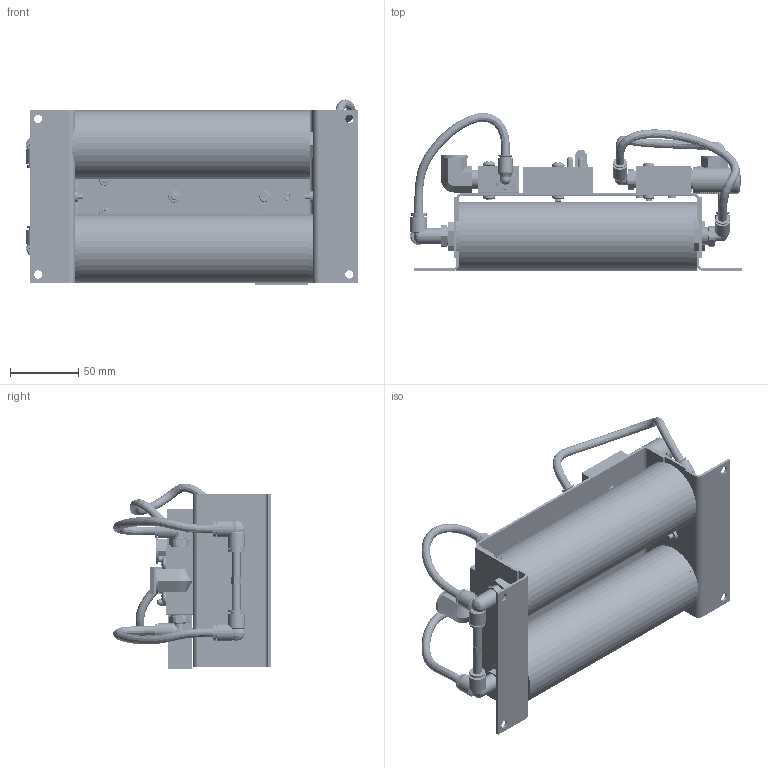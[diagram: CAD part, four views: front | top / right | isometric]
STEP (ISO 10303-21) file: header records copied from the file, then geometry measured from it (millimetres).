
FILE_DESCRIPTION (( 'STEP AP214' ), '1' );
FILE_NAME ('MDH5-XHE.STEP', '2020-09-17T18:07:57', ( '' ), ( '' ), 'SwSTEP 2.0', 'SolidWorks 2017', '' );
FILE_SCHEMA (( 'AUTOMOTIVE_DESIGN' ));
Length unit declared in the file: inch
Products named in the file (1): MDH5-XHE
Bounding box: 243.95 x 115.75 x 135.95 mm (x, y, z)
Volume: 603879.9 mm3; surface area: 366055.7 mm2
Topology: 55 solids, 55 shells, 4152 faces, 11076 edges, 7168 vertices
Faces by surface type: plane 1996, cylinder 1298, cone 402, bspline 344, torus 74, sphere 38
Entity records: 212332 total; most frequent: CARTESIAN_POINT 58583, ORIENTED_EDGE 22020, DIRECTION 18972, EDGE_CURVE 11010, VERTEX_POINT 7156, AXIS2_PLACEMENT_3D 6609, LINE 5754, VECTOR 5754
